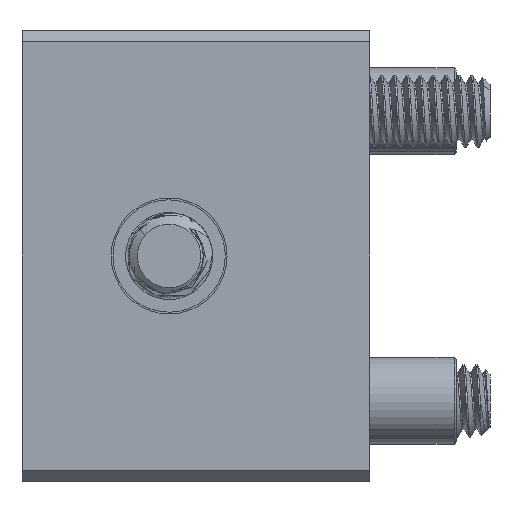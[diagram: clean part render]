
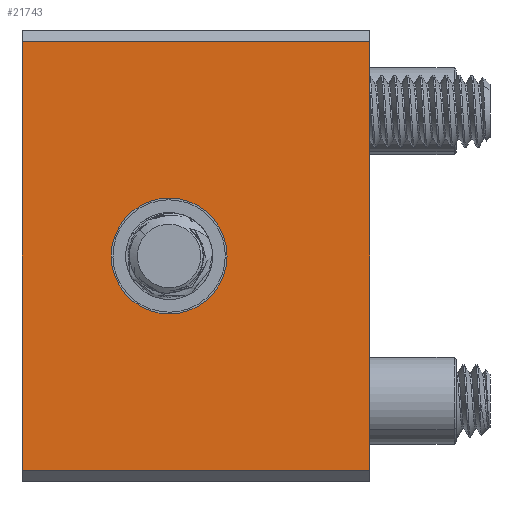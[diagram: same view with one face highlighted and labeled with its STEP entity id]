
A CAD part, left-side view. The second image highlights one B-rep face of the part: STEP entity #21743.
In plain terms, the highlighted planar face has unit normal (-1, 0, 0).
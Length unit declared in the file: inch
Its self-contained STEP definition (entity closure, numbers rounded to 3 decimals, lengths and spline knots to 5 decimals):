
#1311 = CARTESIAN_POINT ( 'NONE',  ( -0.975, 0.75, 0.925 ) ) ;
#1560 = EDGE_CURVE ( 'NONE', #4323, #77257, #65690, .T. ) ;
#1993 = EDGE_CURVE ( 'NONE', #4840, #4323, #61168, .T. ) ;
#4323 = VERTEX_POINT ( 'NONE', #87671 ) ;
#4840 = VERTEX_POINT ( 'NONE', #36772 ) ;
#8360 = FACE_BOUND ( 'NONE', #82391, .T. ) ;
#8887 = ORIENTED_EDGE ( 'NONE', *, *, #1993, .T. ) ;
#9648 = VECTOR ( 'NONE', #43188, 39.37008 ) ;
#11307 = CARTESIAN_POINT ( 'NONE',  ( -0.975, 0.75, -0.975 ) ) ;
#12281 = CARTESIAN_POINT ( 'NONE',  ( -0.975, 0.115, 0. ) ) ;
#13524 = ORIENTED_EDGE ( 'NONE', *, *, #85437, .F. ) ;
#14100 = EDGE_CURVE ( 'NONE', #79139, #32939, #43724, .T. ) ;
#17662 = LINE ( 'NONE', #39303, #90104 ) ;
#19255 = DIRECTION ( 'NONE',  ( 0., 0., 1. ) ) ;
#19350 = DIRECTION ( 'NONE',  ( 0., -1., 0. ) ) ;
#21743 = ADVANCED_FACE ( 'NONE', ( #8360, #85166 ), #81881, .T. ) ;
#23765 = EDGE_LOOP ( 'NONE', ( #8887, #90454, #74180, #23776 ) ) ;
#23776 = ORIENTED_EDGE ( 'NONE', *, *, #45188, .T. ) ;
#29035 = CARTESIAN_POINT ( 'NONE',  ( -0.975, 0.75, 0.925 ) ) ;
#29703 = DIRECTION ( 'NONE',  ( -1., 0., 0. ) ) ;
#31469 = EDGE_CURVE ( 'NONE', #54044, #77257, #17662, .T. ) ;
#31481 = CARTESIAN_POINT ( 'NONE',  ( -0.975, -0.75, -0.975 ) ) ;
#31640 = CARTESIAN_POINT ( 'NONE',  ( -0.975, -0.75, -0.925 ) ) ;
#32939 = VERTEX_POINT ( 'NONE', #34648 ) ;
#34648 = CARTESIAN_POINT ( 'NONE',  ( -0.975, 0.365, 0. ) ) ;
#36772 = CARTESIAN_POINT ( 'NONE',  ( -0.975, -0.75, -0.925 ) ) ;
#39303 = CARTESIAN_POINT ( 'NONE',  ( -0.975, 0.75, -0.975 ) ) ;
#39933 = DIRECTION ( 'NONE',  ( -1., 0., 0. ) ) ;
#39975 = AXIS2_PLACEMENT_3D ( 'NONE', #71757, #29703, #78813 ) ;
#42545 = VECTOR ( 'NONE', #53581, 39.37008 ) ;
#43188 = DIRECTION ( 'NONE',  ( 0., 1., 0. ) ) ;
#43724 = CIRCLE ( 'NONE', #39975, 0.25 ) ;
#45188 = EDGE_CURVE ( 'NONE', #54044, #4840, #46684, .T. ) ;
#46684 = LINE ( 'NONE', #31640, #65319 ) ;
#53581 = DIRECTION ( 'NONE',  ( 0., 0., 1. ) ) ;
#54044 = VERTEX_POINT ( 'NONE', #66236 ) ;
#59122 = ORIENTED_EDGE ( 'NONE', *, *, #14100, .F. ) ;
#61168 = LINE ( 'NONE', #31481, #42545 ) ;
#61404 = DIRECTION ( 'NONE',  ( -1., 0., 0. ) ) ;
#65232 = AXIS2_PLACEMENT_3D ( 'NONE', #11307, #39933, #88958 ) ;
#65319 = VECTOR ( 'NONE', #73706, 39.37008 ) ;
#65690 = LINE ( 'NONE', #29035, #9648 ) ;
#66236 = CARTESIAN_POINT ( 'NONE',  ( -0.975, 0.75, -0.925 ) ) ;
#67006 = CIRCLE ( 'NONE', #71192, 0.25 ) ;
#67300 = CARTESIAN_POINT ( 'NONE',  ( -0.975, -0.135, 0. ) ) ;
#71192 = AXIS2_PLACEMENT_3D ( 'NONE', #12281, #61404, #19350 ) ;
#71757 = CARTESIAN_POINT ( 'NONE',  ( -0.975, 0.115, 0. ) ) ;
#73706 = DIRECTION ( 'NONE',  ( 0., -1., 0. ) ) ;
#74180 = ORIENTED_EDGE ( 'NONE', *, *, #31469, .F. ) ;
#77257 = VERTEX_POINT ( 'NONE', #1311 ) ;
#78813 = DIRECTION ( 'NONE',  ( 0., -1., 0. ) ) ;
#79139 = VERTEX_POINT ( 'NONE', #67300 ) ;
#81881 = PLANE ( 'NONE',  #65232 ) ;
#82391 = EDGE_LOOP ( 'NONE', ( #59122, #13524 ) ) ;
#85166 = FACE_OUTER_BOUND ( 'NONE', #23765, .T. ) ;
#85437 = EDGE_CURVE ( 'NONE', #32939, #79139, #67006, .T. ) ;
#87671 = CARTESIAN_POINT ( 'NONE',  ( -0.975, -0.75, 0.925 ) ) ;
#88958 = DIRECTION ( 'NONE',  ( 0., -1., 0. ) ) ;
#90104 = VECTOR ( 'NONE', #19255, 39.37008 ) ;
#90454 = ORIENTED_EDGE ( 'NONE', *, *, #1560, .T. ) ;
